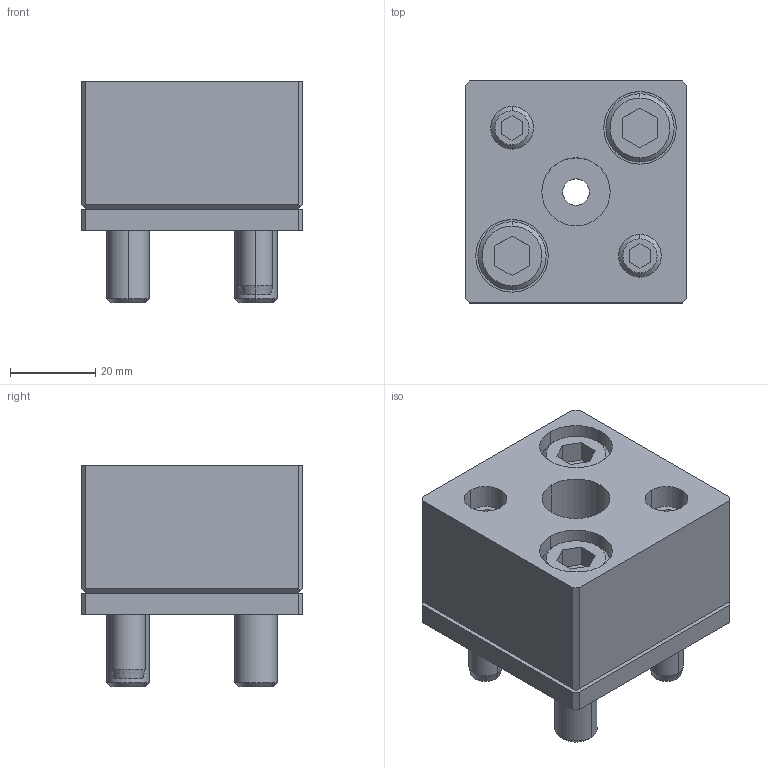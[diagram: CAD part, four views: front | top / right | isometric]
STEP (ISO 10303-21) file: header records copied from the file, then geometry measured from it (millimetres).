
FILE_DESCRIPTION(/* description */ (''),/* implementation_level */ '2;1');
FILE_NAME(/* name */ '3d_sa-fp16_03070_r00.stp',/* time_stamp */ '2011-01-10T14:11:28+09:00',/* author */ ('MISUMI'),/* organization */ (''),/* preprocessor_version */ 'ST-DEVELOPER v11',/* originating_system */ 'UGS - NX 5.0',/* authorisation */ '');
FILE_SCHEMA (('CONFIG_CONTROL_DESIGN'));
Length unit declared in the file: millimetre
Products named in the file (1): 3d_sa-fp16_03070_r00
Bounding box: 52 x 52 x 52 mm (x, y, z)
Volume: 86071.9 mm3; surface area: 30212.1 mm2
Topology: 8 solids, 8 shells, 159 faces, 362 edges, 233 vertices
Faces by surface type: plane 78, cylinder 55, cone 26
Entity records: 4622 total; most frequent: DIRECTION 814, CARTESIAN_POINT 802, ORIENTED_EDGE 724, EDGE_CURVE 362, AXIS2_PLACEMENT_3D 297, VERTEX_POINT 233, LINE 220, VECTOR 220
